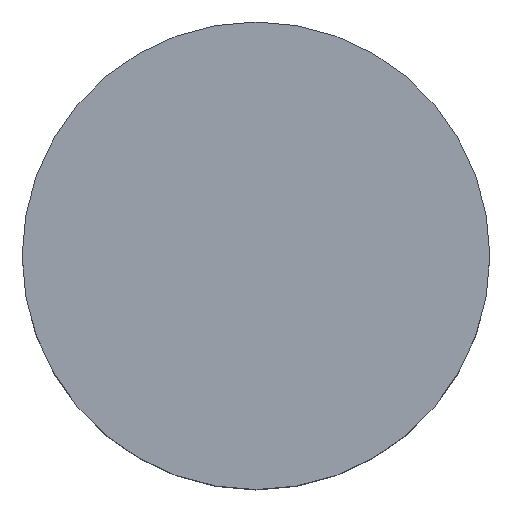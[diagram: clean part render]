
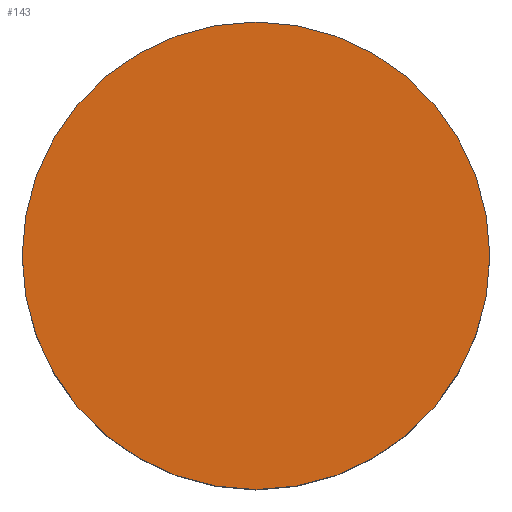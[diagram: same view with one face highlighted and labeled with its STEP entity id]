
A CAD part, top view. The second image highlights one B-rep face of the part: STEP entity #143.
In plain terms, the highlighted planar face has unit normal (0, 0, 1).
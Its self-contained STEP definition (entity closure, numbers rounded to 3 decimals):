
#2 = VERTEX_POINT ( 'NONE', #44 ) ;
#3 = VERTEX_POINT ( 'NONE', #154 ) ;
#4 = AXIS2_PLACEMENT_3D ( 'NONE', #172, #50, #16 ) ;
#16 = DIRECTION ( 'NONE',  ( 1., 0., 0. ) ) ;
#19 = CIRCLE ( 'NONE', #84, 30. ) ;
#43 = ORIENTED_EDGE ( 'NONE', *, *, #150, .T. ) ;
#44 = CARTESIAN_POINT ( 'NONE',  ( 30., 0., 28. ) ) ;
#45 = AXIS2_PLACEMENT_3D ( 'NONE', #69, #117, #85 ) ;
#46 = PLANE ( 'NONE',  #45 ) ;
#50 = DIRECTION ( 'NONE',  ( 0., 0., 1. ) ) ;
#54 = EDGE_CURVE ( 'NONE', #2, #3, #19, .T. ) ;
#61 = DIRECTION ( 'NONE',  ( 0., 0., 1. ) ) ;
#69 = CARTESIAN_POINT ( 'NONE',  ( 0., 0., 28. ) ) ;
#73 = CARTESIAN_POINT ( 'NONE',  ( 0., 0., 28. ) ) ;
#84 = AXIS2_PLACEMENT_3D ( 'NONE', #73, #61, #114 ) ;
#85 = DIRECTION ( 'NONE',  ( 1., 0., 0. ) ) ;
#114 = DIRECTION ( 'NONE',  ( 1., 0., 0. ) ) ;
#117 = DIRECTION ( 'NONE',  ( 0., 0., 1. ) ) ;
#125 = ORIENTED_EDGE ( 'NONE', *, *, #54, .T. ) ;
#139 = EDGE_LOOP ( 'NONE', ( #43, #125 ) ) ;
#143 = ADVANCED_FACE ( 'NONE', ( #155 ), #46, .T. ) ;
#150 = EDGE_CURVE ( 'NONE', #3, #2, #169, .T. ) ;
#154 = CARTESIAN_POINT ( 'NONE',  ( -30., 0., 28. ) ) ;
#155 = FACE_OUTER_BOUND ( 'NONE', #139, .T. ) ;
#169 = CIRCLE ( 'NONE', #4, 30. ) ;
#172 = CARTESIAN_POINT ( 'NONE',  ( 0., 0., 28. ) ) ;
